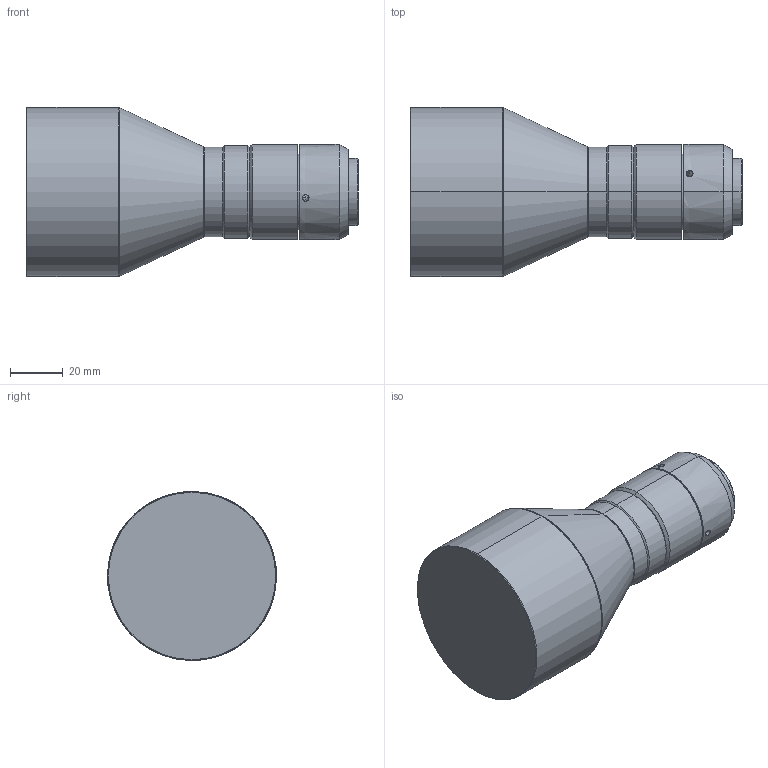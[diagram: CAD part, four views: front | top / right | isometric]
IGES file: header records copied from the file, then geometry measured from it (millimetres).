
Start section: SolidWorks IGES file using analytic representation for surfaces
Global section: file name: D:\撮扲窒\3D俋倛芞\3D   igs\DTCM\DTCM230\DTCM230-48S-AL.IGS; native system: SolidWorks 2012; preprocessor: SolidWorks 2012; author: ZXC; date: 180730.163618; units: millimetre
Bounding box: 125.7 x 64 x 64 mm (x, y, z)
Surface area: 23936.5 mm2 (no closed solid volume)
Topology: 0 solids, 0 shells, 51 faces, 770 edges, 764 vertices
Faces by surface type: revolution 42, bspline 9
